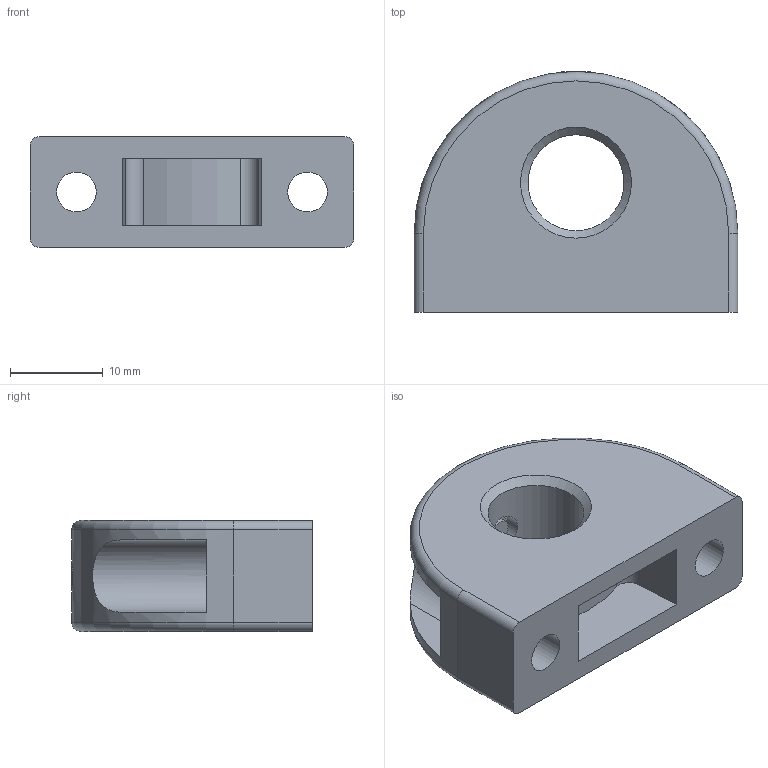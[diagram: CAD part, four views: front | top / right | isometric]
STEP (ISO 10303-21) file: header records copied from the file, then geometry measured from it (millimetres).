
FILE_DESCRIPTION( ( 'STEP AP203' ), '1' );
FILE_NAME( 'C:/Temp/Ganter_Step_05_03_2020/data/3_1/gn412_1/Mounting block GN 412.1-35-M12x1,5-1.stp', '2020-03-12T08:30:52', ( 'License CC BY-ND 4.0' ), ( 'CADENAS' ), ' ', 'PARTsolutions', ' ' );
FILE_SCHEMA( ( 'CONFIG_CONTROL_DESIGN' ) );
Length unit declared in the file: millimetre
Products named in the file (1): _Mounting block GN 412.1-35-M12x1,5-1
Bounding box: 35 x 26 x 12 mm (x, y, z)
Volume: 5828.6 mm3; surface area: 3957.8 mm2
Topology: 1 solids, 1 shells, 51 faces, 114 edges, 72 vertices
Faces by surface type: plane 27, cylinder 17, cone 5, torus 2
Full cylindrical faces by diameter (mm): 2.5 x1, 4 x2, 4.3 x2, 7.8 x2, 10.376 x1, 12.2 x1
Entity records: 1574 total; most frequent: CARTESIAN_POINT 406, DIRECTION 242, ORIENTED_EDGE 200, EDGE_CURVE 100, AXIS2_PLACEMENT_3D 94, EDGE_LOOP 78, VERTEX_POINT 72, FACE_OUTER_BOUND 60
